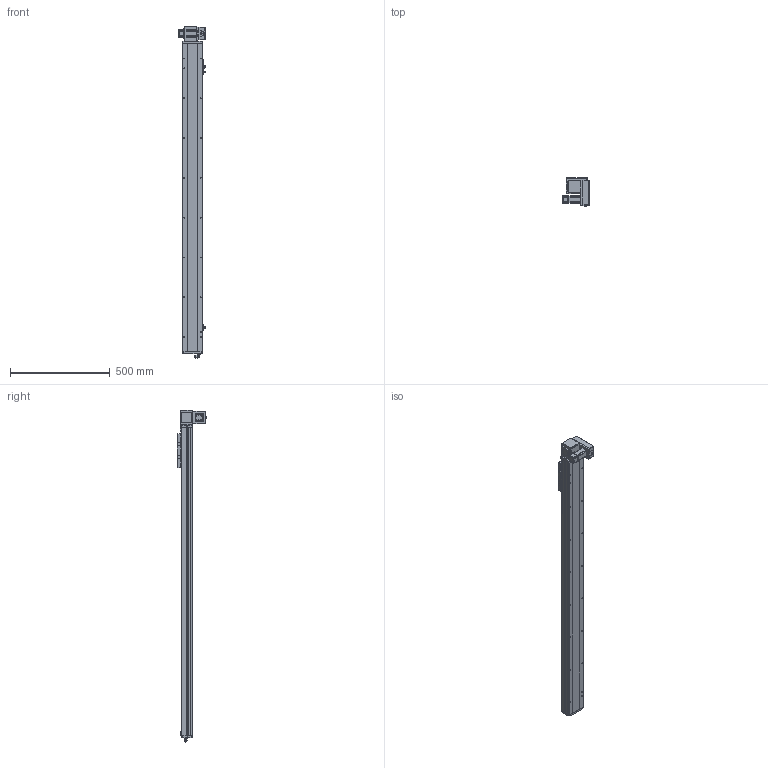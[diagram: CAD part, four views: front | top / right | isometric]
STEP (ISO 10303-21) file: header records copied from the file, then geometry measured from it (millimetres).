
FILE_DESCRIPTION (( 'STEP AP214' ), '1' );
FILE_NAME ('TPE10-L32-1300-RD-T10-C4.STEP', '2023-03-13T07:21:10', ( '' ), ( '' ), 'SwSTEP 2.0', 'SolidWorks 2020', '' );
FILE_SCHEMA (( 'AUTOMOTIVE_DESIGN' ));
Length unit declared in the file: millimetre
Products named in the file (15): 葩璃 pm-t65-672^TPE10-L32-RD-T10-C4; TPE10-L32-1300-RD-T10-C4; 葩璃 TPE10-007 々湍釱MZ-169x88^TPE10-L32-RD-T10-C4; hex nuts, style 1-grades ab gb_GB_FASTENER_NUT_SNAB1 M3-N; 葩璃 TPE10-L-001 菁釱MZ-102A-01^TPE10-L32-RD-T10-C4; hexagon head bolts-full thread gb_GB_FASTENER_BOLT_STBAB A M5X16-N; 葩璃 TPE10-L-002 耜裔ZTMT-102B-04^TPE10-L32-RD-T10-C4; 葩璃 TPT10-L-009 萇儂啣^TPE10-L32-RD-T10-C4_100W; 葩璃 TPF10 詩湍揤啣 TPF10 12^TPE10-L32-RD-T10-C4; 葩璃 TPE10 賑雄殤 TPE10^TPE10-L32-RD-T10-C4; 葩璃 侂狟100W^TPE10-L32-RD-T10-C4; hexagon socket head cap screws gb_GB_FASTENER_SCREWS_HSHCS M3X6-N; 葩璃 TPF10-L-008 耜醱啣^TPE10-L32-RD-T10-C4; 葩璃 詩湍75^TPE10-L32-RD-T10-C4; 葩璃 PL8-02^TPE10-L32-RD-T10-C4
Assembly tree (28 placements, depth 2):
  TPE10-L32-1300-RD-T10-C4
    葩璃 TPE10-L-001 菁釱MZ-102A-01^TPE10-L32-RD-T10-C4
    葩璃 TPE10-L-002 耜裔ZTMT-102B-04^TPE10-L32-RD-T10-C4  x2
    葩璃 詩湍75^TPE10-L32-RD-T10-C4
    葩璃 TPE10-007 々湍釱MZ-169x88^TPE10-L32-RD-T10-C4
    葩璃 TPF10-L-008 耜醱啣^TPE10-L32-RD-T10-C4
    葩璃 TPE10 賑雄殤 TPE10^TPE10-L32-RD-T10-C4
    葩璃 TPF10 詩湍揤啣 TPF10 12^TPE10-L32-RD-T10-C4  x2
    葩璃 TPT10-L-009 萇儂啣^TPE10-L32-RD-T10-C4_100W
    葩璃 pm-t65-672^TPE10-L32-RD-T10-C4  x3
    葩璃 PL8-02^TPE10-L32-RD-T10-C4
    葩璃 侂狟100W^TPE10-L32-RD-T10-C4
    hexagon socket head cap screws gb_GB_FASTENER_SCREWS_HSHCS M3X6-N  x6
    hex nuts, style 1-grades ab gb_GB_FASTENER_NUT_SNAB1 M3-N  x6
    hexagon head bolts-full thread gb_GB_FASTENER_BOLT_STBAB A M5X16-N
Bounding box: 134.23 x 147.15 x 1668.35 mm (x, y, z)
Volume: 5149790.4 mm3; surface area: 1323785.4 mm2
Topology: 36 solids, 36 shells, 1628 faces, 4146 edges, 2614 vertices
Faces by surface type: plane 899, cylinder 493, cone 184, torus 26, bspline 24, sphere 2
Entity records: 38012 total; most frequent: CARTESIAN_POINT 7919, DIRECTION 5956, ORIENTED_EDGE 5744, EDGE_CURVE 2872, AXIS2_PLACEMENT_3D 2101, VERTEX_POINT 1841, LINE 1754, VECTOR 1754
